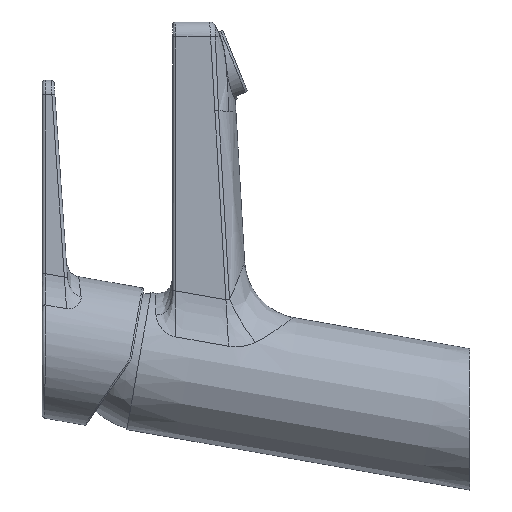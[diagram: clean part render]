
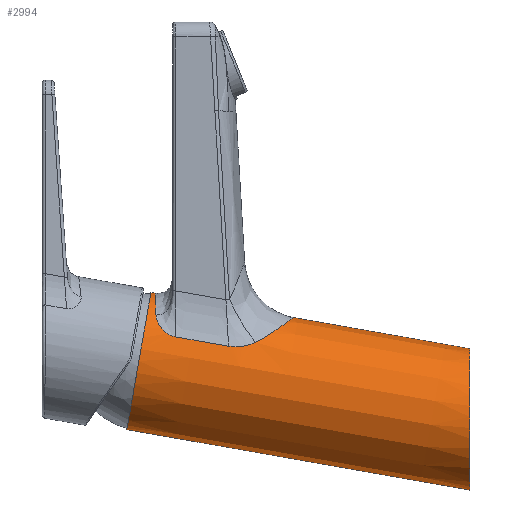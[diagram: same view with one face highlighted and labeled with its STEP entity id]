
A CAD part, left-side view. The second image highlights one B-rep face of the part: STEP entity #2994.
In plain terms, the highlighted conical face has half-angle 0 degrees and reference radius 23.25 mm.
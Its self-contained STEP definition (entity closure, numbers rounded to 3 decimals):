
#57 = ORIENTED_EDGE ( 'NONE', *, *, #418, .F. ) ;
#63 = ORIENTED_EDGE ( 'NONE', *, *, #3363, .F. ) ;
#74 = CARTESIAN_POINT ( 'NONE',  ( -17.248, 67.414, 27.943 ) ) ;
#111 = LINE ( 'NONE', #1598, #5539 ) ;
#272 = CARTESIAN_POINT ( 'NONE',  ( -19.324, 71.566, 25.747 ) ) ;
#317 = B_SPLINE_CURVE_WITH_KNOTS ( 'NONE', 3,
 ( #2802, #1742, #4798, #1295 ),
 .UNSPECIFIED., .F., .F.,
 ( 4, 4 ),
 ( 0., 1. ),
 .UNSPECIFIED. ) ;
#318 = CARTESIAN_POINT ( 'NONE',  ( 0., 58.712, 33.961 ) ) ;
#329 = EDGE_CURVE ( 'NONE', #2567, #481, #5725, .T. ) ;
#360 = FACE_OUTER_BOUND ( 'NONE', #6363, .T. ) ;
#418 = EDGE_CURVE ( 'NONE', #481, #4206, #4464, .T. ) ;
#435 = CARTESIAN_POINT ( 'NONE',  ( -20.247, 74.416, 24.728 ) ) ;
#481 = VERTEX_POINT ( 'NONE', #5138 ) ;
#484 = CARTESIAN_POINT ( 'NONE',  ( -20.955, 80.58, 24.436 ) ) ;
#485 = CARTESIAN_POINT ( 'NONE',  ( 0., 105.118, 42.144 ) ) ;
#566 = DIRECTION ( 'NONE',  ( 0., -0.985, -0.174 ) ) ;
#665 = ORIENTED_EDGE ( 'NONE', *, *, #2941, .T. ) ;
#722 = B_SPLINE_CURVE_WITH_KNOTS ( 'NONE', 1,
 ( #3156, #4717 ),
 .UNSPECIFIED., .F., .F.,
 ( 2, 2 ),
 ( 0., 17.943 ),
 .UNSPECIFIED. ) ;
#746 = CARTESIAN_POINT ( 'NONE',  ( -20.955, 98.25, 27.552 ) ) ;
#791 = CARTESIAN_POINT ( 'NONE',  ( 0., 0., -23.609 ) ) ;
#884 = ORIENTED_EDGE ( 'NONE', *, *, #1913, .T. ) ;
#896 = CARTESIAN_POINT ( 'NONE',  ( -11.533, 61.966, 31.839 ) ) ;
#917 = CARTESIAN_POINT ( 'NONE',  ( -16.5, 104.862, 35.123 ) ) ;
#1030 = CARTESIAN_POINT ( 'NONE',  ( -15.208, 65.06, 29.646 ) ) ;
#1087 =( BOUNDED_CURVE ( )  B_SPLINE_CURVE ( 3, ( #791, #1266, #3820, #5854 ),
 .UNSPECIFIED., .F., .T. ) 
 B_SPLINE_CURVE_WITH_KNOTS ( ( 4, 4 ),
 ( 0., 3.142 ),
 .UNSPECIFIED. ) 
 CURVE ( )  GEOMETRIC_REPRESENTATION_ITEM ( )  RATIONAL_B_SPLINE_CURVE ( ( 1., 0.333, 0.333, 1. ) ) 
 REPRESENTATION_ITEM ( '' )  );
#1266 = CARTESIAN_POINT ( 'NONE',  ( -46.5, 0., -23.609 ) ) ;
#1283 = ORIENTED_EDGE ( 'NONE', *, *, #6212, .F. ) ;
#1295 = CARTESIAN_POINT ( 'NONE',  ( -20.955, 98.25, 27.552 ) ) ;
#1481 = ORIENTED_EDGE ( 'NONE', *, *, #6343, .F. ) ;
#1492 = CARTESIAN_POINT ( 'NONE',  ( 0., 118.314, 20.862 ) ) ;
#1512 = CARTESIAN_POINT ( 'NONE',  ( -20.536, 75.81, 24.437 ) ) ;
#1513 = CARTESIAN_POINT ( 'NONE',  ( -7.369, 105.091, 41.398 ) ) ;
#1554 = CARTESIAN_POINT ( 'NONE',  ( 0., 110.563, 19.495 ) ) ;
#1598 = CARTESIAN_POINT ( 'NONE',  ( 0., 56.191, -13.701 ) ) ;
#1619 = DIRECTION ( 'NONE',  ( 0., 0.174, -0.985 ) ) ;
#1643 = DIRECTION ( 'NONE',  ( 0., -0.985, -0.174 ) ) ;
#1742 = CARTESIAN_POINT ( 'NONE',  ( -19.412, 104.752, 32.125 ) ) ;
#1800 = CARTESIAN_POINT ( 'NONE',  ( -20.955, 80.58, 24.436 ) ) ;
#1846 = ORIENTED_EDGE ( 'NONE', *, *, #6290, .F. ) ;
#1913 = EDGE_CURVE ( 'NONE', #2567, #3780, #6126, .T. ) ;
#1976 = CARTESIAN_POINT ( 'NONE',  ( -20.493, 75.576, 24.477 ) ) ;
#1992 = CARTESIAN_POINT ( 'NONE',  ( 0., 58.712, 33.961 ) ) ;
#1999 = CARTESIAN_POINT ( 'NONE',  ( -13.934, 104.958, 37.765 ) ) ;
#2023 = CARTESIAN_POINT ( 'NONE',  ( -20.792, 77.486, 24.23 ) ) ;
#2492 = CARTESIAN_POINT ( 'NONE',  ( -20.548, 75.88, 24.425 ) ) ;
#2567 = VERTEX_POINT ( 'NONE', #3229 ) ;
#2802 = CARTESIAN_POINT ( 'NONE',  ( -16.5, 104.862, 35.123 ) ) ;
#2814 = VECTOR ( 'NONE', #3649, 1000. ) ;
#2880 = CONICAL_SURFACE ( 'NONE', #5185, 23.25, 0. ) ;
#2941 = EDGE_CURVE ( 'NONE', #5495, #4711, #3332, .T. ) ;
#2994 = ADVANCED_FACE ( 'NONE', ( #360 ), #2880, .T. ) ;
#3053 = CARTESIAN_POINT ( 'NONE',  ( -19.324, 71.566, 25.747 ) ) ;
#3111 = CARTESIAN_POINT ( 'NONE',  ( 0., 48.117, 32.093 ) ) ;
#3156 = CARTESIAN_POINT ( 'NONE',  ( -20.955, 98.25, 27.552 ) ) ;
#3229 = CARTESIAN_POINT ( 'NONE',  ( 0., 106.525, 42.392 ) ) ;
#3266 = CARTESIAN_POINT ( 'NONE',  ( -18.751, 70.189, 26.374 ) ) ;
#3323 = CARTESIAN_POINT ( 'NONE',  ( -3.434, 58.903, 33.834 ) ) ;
#3332 = B_SPLINE_CURVE_WITH_KNOTS ( 'NONE', 3,
 ( #3053, #3444, #5005, #5517, #435, #3944, #4496, #1976, #4445, #1512, #5494, #2492, #3491, #2023, #5533, #6039, #484 ),
 .UNSPECIFIED., .F., .F.,
 ( 4, 2, 2, 1, 1, 1, 2, 2, 2, 4 ),
 ( 0., 0.25, 0.375, 0.437, 0.469, 0.484, 0.492, 0.5, 0.75, 1. ),
 .UNSPECIFIED. ) ;
#3363 = EDGE_CURVE ( 'NONE', #5495, #4287, #5481, .T. ) ;
#3444 = CARTESIAN_POINT ( 'NONE',  ( -19.611, 72.258, 25.433 ) ) ;
#3477 = CARTESIAN_POINT ( 'NONE',  ( 0., 0., -23.609 ) ) ;
#3491 = CARTESIAN_POINT ( 'NONE',  ( -20.692, 76.699, 24.294 ) ) ;
#3649 = DIRECTION ( 'NONE',  ( 0., -0.985, -0.174 ) ) ;
#3770 = CARTESIAN_POINT ( 'NONE',  ( -6.943, 59.729, 33.305 ) ) ;
#3780 = VERTEX_POINT ( 'NONE', #4048 ) ;
#3820 = CARTESIAN_POINT ( 'NONE',  ( -46.5, 0., 23.609 ) ) ;
#3944 = CARTESIAN_POINT ( 'NONE',  ( -20.371, 74.97, 24.598 ) ) ;
#3961 = LINE ( 'NONE', #3111, #5704 ) ;
#4048 = CARTESIAN_POINT ( 'NONE',  ( 0., 114.6, -3.402 ) ) ;
#4118 = AXIS2_PLACEMENT_3D ( 'NONE', #1554, #566, #1619 ) ;
#4131 = CARTESIAN_POINT ( 'NONE',  ( -19.324, 71.566, 25.747 ) ) ;
#4171 = ORIENTED_EDGE ( 'NONE', *, *, #329, .F. ) ;
#4206 = VERTEX_POINT ( 'NONE', #917 ) ;
#4264 = CARTESIAN_POINT ( 'NONE',  ( -1.718, 58.712, 33.961 ) ) ;
#4287 = VERTEX_POINT ( 'NONE', #1992 ) ;
#4445 = CARTESIAN_POINT ( 'NONE',  ( -20.523, 75.74, 24.448 ) ) ;
#4464 = B_SPLINE_CURVE_WITH_KNOTS ( 'NONE', 5,
 ( #485, #4498, #1513, #6523, #1999, #5519 ),
 .UNSPECIFIED., .F., .F.,
 ( 6, 6 ),
 ( 0., 1. ),
 .UNSPECIFIED. ) ;
#4475 = EDGE_CURVE ( 'NONE', #4206, #5043, #317, .T. ) ;
#4480 = ORIENTED_EDGE ( 'NONE', *, *, #4750, .T. ) ;
#4496 = CARTESIAN_POINT ( 'NONE',  ( -20.43, 75.249, 24.538 ) ) ;
#4498 = CARTESIAN_POINT ( 'NONE',  ( -3.684, 105.118, 42.144 ) ) ;
#4522 = DIRECTION ( 'NONE',  ( 0., -0.985, -0.174 ) ) ;
#4554 = VERTEX_POINT ( 'NONE', #3477 ) ;
#4711 = VERTEX_POINT ( 'NONE', #1800 ) ;
#4717 = CARTESIAN_POINT ( 'NONE',  ( -20.955, 80.58, 24.436 ) ) ;
#4750 = EDGE_CURVE ( 'NONE', #4554, #5120, #1087, .T. ) ;
#4798 = CARTESIAN_POINT ( 'NONE',  ( -20.955, 102.367, 28.278 ) ) ;
#5005 = CARTESIAN_POINT ( 'NONE',  ( -19.852, 72.966, 25.161 ) ) ;
#5043 = VERTEX_POINT ( 'NONE', #746 ) ;
#5120 = VERTEX_POINT ( 'NONE', #5830 ) ;
#5138 = CARTESIAN_POINT ( 'NONE',  ( 0., 105.118, 42.144 ) ) ;
#5144 = CARTESIAN_POINT ( 'NONE',  ( 0., 48.117, 32.093 ) ) ;
#5158 = DIRECTION ( 'NONE',  ( 0., 0.985, 0.174 ) ) ;
#5185 = AXIS2_PLACEMENT_3D ( 'NONE', #1492, #4522, #6063 ) ;
#5481 = B_SPLINE_CURVE_WITH_KNOTS ( 'NONE', 5,
 ( #272, #3266, #74, #1030, #896, #3770, #3323, #4264, #318 ),
 .UNSPECIFIED., .F., .F.,
 ( 6, 1, 2, 6 ),
 ( 0., 0.31, 0.671, 1. ),
 .UNSPECIFIED. ) ;
#5494 = CARTESIAN_POINT ( 'NONE',  ( -20.545, 75.858, 24.429 ) ) ;
#5495 = VERTEX_POINT ( 'NONE', #4131 ) ;
#5517 = CARTESIAN_POINT ( 'NONE',  ( -20.156, 74.051, 24.827 ) ) ;
#5519 = CARTESIAN_POINT ( 'NONE',  ( -16.5, 104.862, 35.123 ) ) ;
#5533 = CARTESIAN_POINT ( 'NONE',  ( -20.923, 79.045, 24.234 ) ) ;
#5539 = VECTOR ( 'NONE', #5158, 1000. ) ;
#5704 = VECTOR ( 'NONE', #1643, 1000. ) ;
#5725 = LINE ( 'NONE', #5144, #2814 ) ;
#5830 = CARTESIAN_POINT ( 'NONE',  ( 0., 0., 23.609 ) ) ;
#5854 = CARTESIAN_POINT ( 'NONE',  ( 0., 0., 23.609 ) ) ;
#6039 = CARTESIAN_POINT ( 'NONE',  ( -20.955, 79.816, 24.301 ) ) ;
#6063 = DIRECTION ( 'NONE',  ( 0., -0.174, 0.985 ) ) ;
#6126 = CIRCLE ( 'NONE', #4118, 23.25 ) ;
#6212 = EDGE_CURVE ( 'NONE', #4554, #3780, #111, .T. ) ;
#6290 = EDGE_CURVE ( 'NONE', #4287, #5120, #3961, .T. ) ;
#6343 = EDGE_CURVE ( 'NONE', #5043, #4711, #722, .T. ) ;
#6347 = ORIENTED_EDGE ( 'NONE', *, *, #4475, .F. ) ;
#6363 = EDGE_LOOP ( 'NONE', ( #1283, #4480, #1846, #63, #665, #1481, #6347, #57, #4171, #884 ) ) ;
#6523 = CARTESIAN_POINT ( 'NONE',  ( -10.85, 105.037, 39.905 ) ) ;
